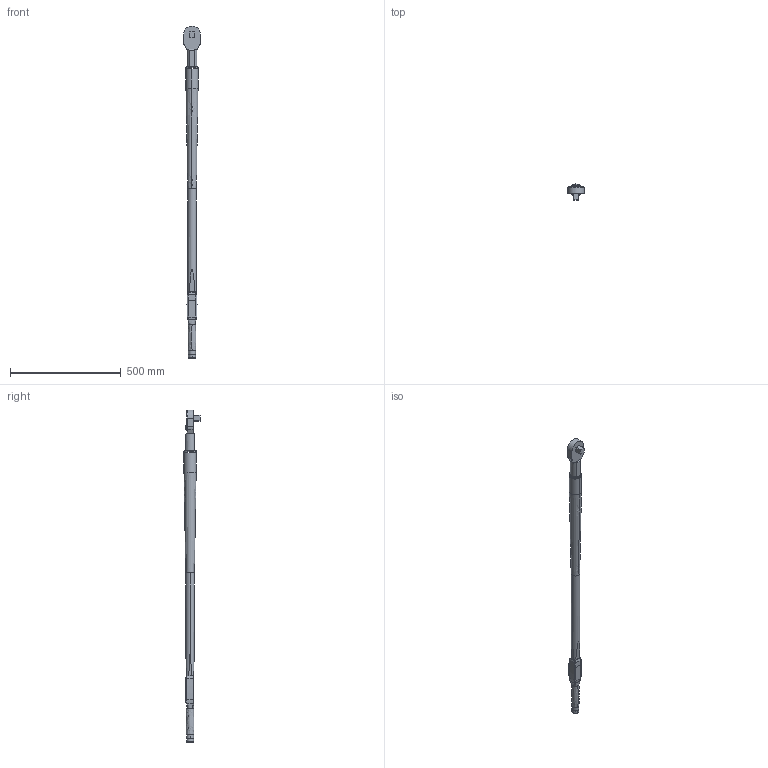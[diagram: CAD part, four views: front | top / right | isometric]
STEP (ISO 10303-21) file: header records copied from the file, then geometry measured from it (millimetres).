
FILE_DESCRIPTION((''),'2;1');
FILE_NAME('6159352150_DIM','2021-06-28T09:38:53',('S00000450'),(''),'CREO PARAMETRIC BY PTC INC, 2021072','CREO PARAMETRIC BY PTC INC, 2021072','');
FILE_SCHEMA(('AP242_MANAGED_MODEL_BASED_3D_ENGINEERING_MIM_LF { 1 0 10303 442 1 1 4 }'));
Length unit declared in the file: millimetre
Products named in the file (1): 6159352150_DIM
Bounding box: 74 x 72.5 x 1499 mm (x, y, z)
Surface area: 218002.7 mm2 (no closed solid volume)
Topology: 0 solids, 18 shells, 156 faces, 590 edges, 428 vertices
Faces by surface type: plane 46, bspline 46, cylinder 43, cone 13, extrusion 8
Entity records: 12043 total; most frequent: CARTESIAN_POINT 6925, ORIENTED_EDGE 841, DIRECTION 734, EDGE_CURVE 589, VERTEX_POINT 428, AXIS2_PLACEMENT_3D 268, B_SPLINE_CURVE_WITH_KNOTS 241, VECTOR 198
